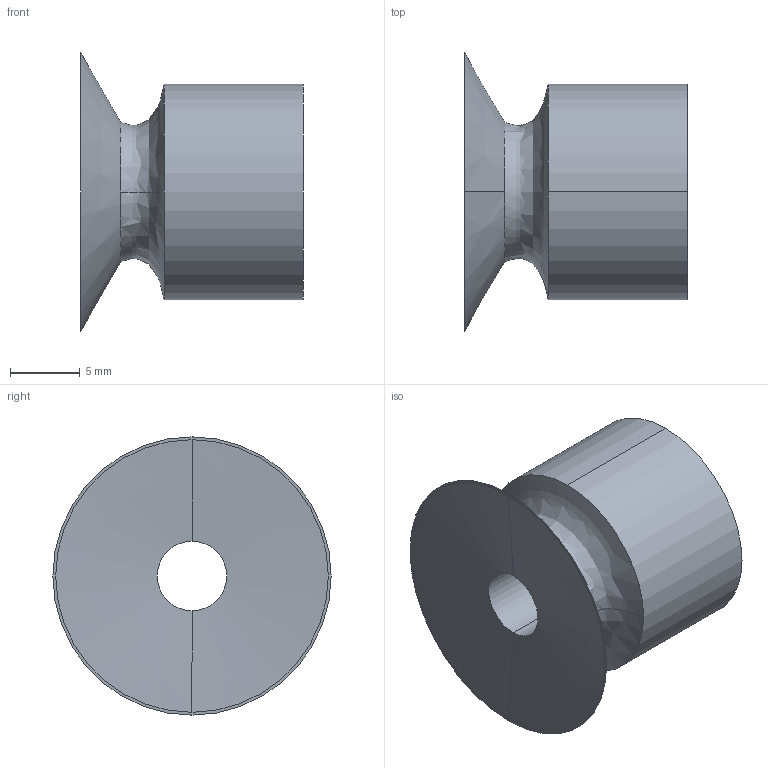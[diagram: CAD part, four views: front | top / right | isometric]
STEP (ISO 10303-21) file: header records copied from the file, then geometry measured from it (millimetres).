
FILE_DESCRIPTION (( 'STEP AP214' ), '1' );
FILE_NAME ('VSH-20R.STEP', '2019-11-14T01:30:11', ( '微软用户' ), ( '微软中国' ), 'SwSTEP 2.0', 'SolidWorks 2016', '' );
FILE_SCHEMA (( 'AUTOMOTIVE_DESIGN' ));
Length unit declared in the file: millimetre
Products named in the file (1): VSH-20R
Bounding box: 16 x 20 x 20 mm (x, y, z)
Volume: 2109.2 mm3; surface area: 1795.8 mm2
Topology: 1 solids, 1 shells, 18 faces, 40 edges, 26 vertices
Faces by surface type: cylinder 8, cone 4, plane 4, bspline 2
Entity records: 566 total; most frequent: CARTESIAN_POINT 111, DIRECTION 98, ORIENTED_EDGE 80, AXIS2_PLACEMENT_3D 43, EDGE_CURVE 40, CIRCLE 26, VERTEX_POINT 26, EDGE_LOOP 22
